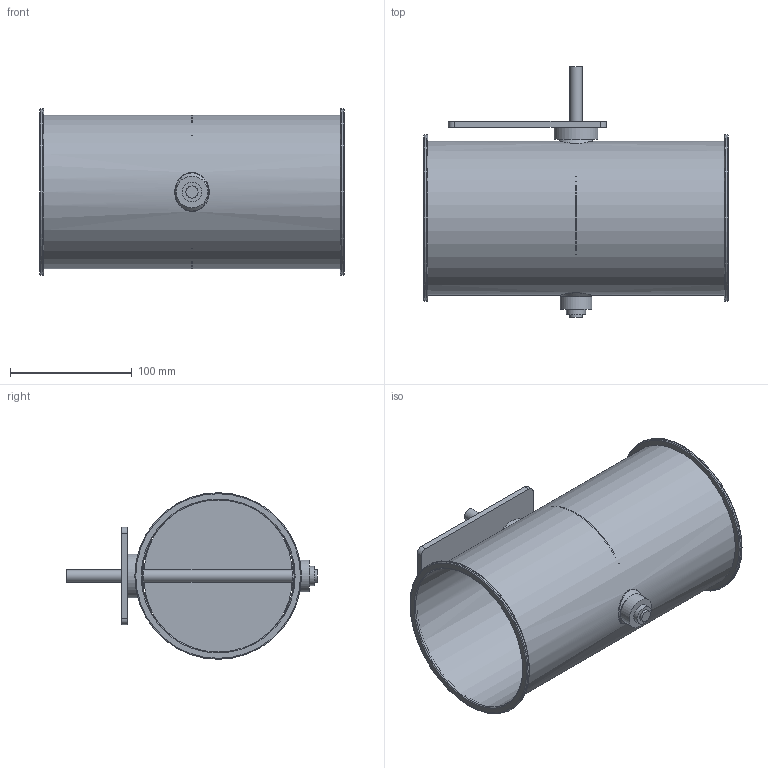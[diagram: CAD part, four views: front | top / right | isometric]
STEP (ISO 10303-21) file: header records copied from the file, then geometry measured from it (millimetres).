
FILE_DESCRIPTION(/* description */ (''),/* implementation_level */ '2;1');
FILE_NAME(/* name */ 'EA122-80B__125_L250_Belimo_Typ_LM.stp',/* time_stamp */ '2017-12-05T13:48:46+01:00',/* author */ (''),/* organization */ (''),/* preprocessor_version */ 'ST-DEVELOPER v11',/* originating_system */ 'SIEMENS UGS NX 6.0',/* authorisation */ '');
FILE_SCHEMA (('CONFIG_CONTROL_DESIGN'));
Length unit declared in the file: millimetre
Products named in the file (1): gars1E3Bhiip
Bounding box: 250 x 206 x 137 mm (x, y, z)
Volume: 188554.3 mm3; surface area: 269644 mm2
Topology: 8 solids, 8 shells, 76 faces, 161 edges, 109 vertices
Faces by surface type: plane 30, cylinder 28, torus 10, cone 4, bspline 4
Full cylindrical faces by diameter (mm): 4.1 x4, 10 x3, 15 x3, 15.85 x2, 16 x2, 24 x2, 26 x1, 36 x1, 125 x1, 126.6 x1, 137 x2
Entity records: 2424 total; most frequent: CARTESIAN_POINT 901, DIRECTION 310, ORIENTED_EDGE 204, EDGE_LOOP 148, AXIS2_PLACEMENT_3D 143, FACE_BOUND 134, EDGE_CURVE 102, VERTEX_POINT 90
